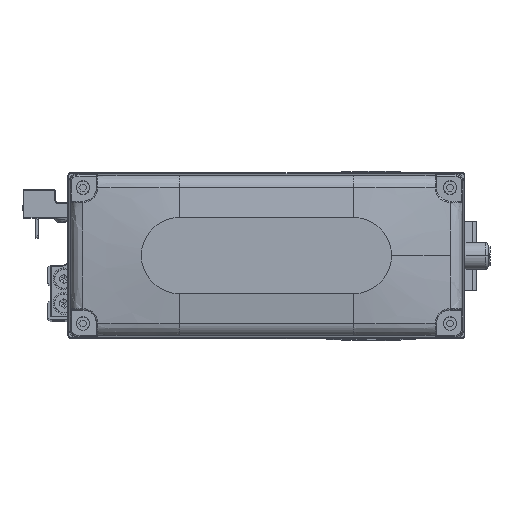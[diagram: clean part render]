
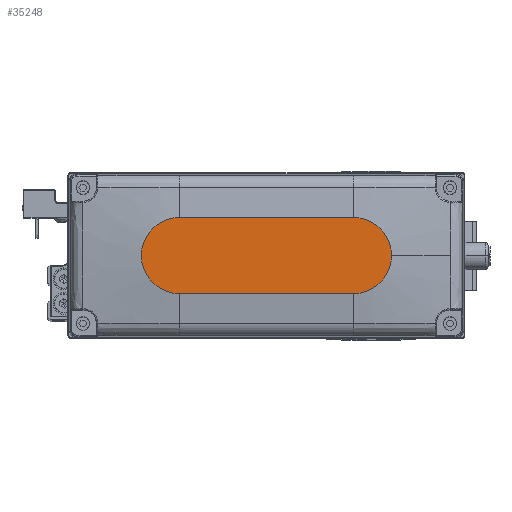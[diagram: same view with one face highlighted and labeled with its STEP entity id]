
A CAD part, top view. The second image highlights one B-rep face of the part: STEP entity #35248.
In plain terms, the highlighted planar face has unit normal (0, 0, 1).
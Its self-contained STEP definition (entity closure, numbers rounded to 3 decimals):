
#971 = AXIS2_PLACEMENT_3D ( 'NONE', #16102, #29853, #43582 ) ;
#2519 = EDGE_CURVE ( 'NONE', #14232, #36841, #20428, .T. ) ;
#2856 = ORIENTED_EDGE ( 'NONE', *, *, #8166, .T. ) ;
#2910 = DIRECTION ( 'NONE',  ( -1., 0., 0. ) ) ;
#3317 = CIRCLE ( 'NONE', #28477, 14. ) ;
#3831 = ORIENTED_EDGE ( 'NONE', *, *, #22812, .T. ) ;
#4635 = DIRECTION ( 'NONE',  ( 0., 0., 1. ) ) ;
#7347 = VERTEX_POINT ( 'NONE', #38897 ) ;
#7358 = DIRECTION ( 'NONE',  ( 1., 0., 0. ) ) ;
#8166 = EDGE_CURVE ( 'NONE', #36964, #11638, #3317, .T. ) ;
#10507 = AXIS2_PLACEMENT_3D ( 'NONE', #41659, #10808, #24541 ) ;
#10808 = DIRECTION ( 'NONE',  ( 0., 0., 1. ) ) ;
#11638 = VERTEX_POINT ( 'NONE', #43970 ) ;
#13787 = LINE ( 'NONE', #27514, #36539 ) ;
#14216 = FACE_OUTER_BOUND ( 'NONE', #30255, .T. ) ;
#14232 = VERTEX_POINT ( 'NONE', #39250 ) ;
#16102 = CARTESIAN_POINT ( 'NONE',  ( 32., 0., 35. ) ) ;
#16183 = AXIS2_PLACEMENT_3D ( 'NONE', #35482, #4635, #18400 ) ;
#17114 = CARTESIAN_POINT ( 'NONE',  ( 46., 0., 35. ) ) ;
#18400 = DIRECTION ( 'NONE',  ( 1., 0., 0. ) ) ;
#19140 = VECTOR ( 'NONE', #2910, 1000. ) ;
#20062 = LINE ( 'NONE', #33777, #19140 ) ;
#20428 = CIRCLE ( 'NONE', #971, 14. ) ;
#22812 = EDGE_CURVE ( 'NONE', #7347, #36964, #20062, .T. ) ;
#24489 = CARTESIAN_POINT ( 'NONE',  ( -32., 0., 35. ) ) ;
#24541 = DIRECTION ( 'NONE',  ( 1., 0., 0. ) ) ;
#27514 = CARTESIAN_POINT ( 'NONE',  ( -32., -14., 35. ) ) ;
#27949 = PLANE ( 'NONE',  #10507 ) ;
#28477 = AXIS2_PLACEMENT_3D ( 'NONE', #24489, #38205, #7358 ) ;
#28516 = ORIENTED_EDGE ( 'NONE', *, *, #2519, .T. ) ;
#29853 = DIRECTION ( 'NONE',  ( 0., 0., 1. ) ) ;
#30255 = EDGE_LOOP ( 'NONE', ( #3831, #2856, #37730, #28516, #40513 ) ) ;
#33777 = CARTESIAN_POINT ( 'NONE',  ( -32., 14., 35. ) ) ;
#35248 = ADVANCED_FACE ( 'NONE', ( #14216 ), #27949, .T. ) ;
#35482 = CARTESIAN_POINT ( 'NONE',  ( 32., 0., 35. ) ) ;
#35600 = CIRCLE ( 'NONE', #16183, 14. ) ;
#36539 = VECTOR ( 'NONE', #41232, 1000. ) ;
#36841 = VERTEX_POINT ( 'NONE', #17114 ) ;
#36964 = VERTEX_POINT ( 'NONE', #42273 ) ;
#37730 = ORIENTED_EDGE ( 'NONE', *, *, #43102, .T. ) ;
#38205 = DIRECTION ( 'NONE',  ( 0., 0., 1. ) ) ;
#38897 = CARTESIAN_POINT ( 'NONE',  ( 32., 14., 35. ) ) ;
#39250 = CARTESIAN_POINT ( 'NONE',  ( 32., -14., 35. ) ) ;
#39998 = EDGE_CURVE ( 'NONE', #36841, #7347, #35600, .T. ) ;
#40513 = ORIENTED_EDGE ( 'NONE', *, *, #39998, .T. ) ;
#41232 = DIRECTION ( 'NONE',  ( 1., 0., 0. ) ) ;
#41659 = CARTESIAN_POINT ( 'NONE',  ( 0., 0., 35. ) ) ;
#42273 = CARTESIAN_POINT ( 'NONE',  ( -32., 14., 35. ) ) ;
#43102 = EDGE_CURVE ( 'NONE', #11638, #14232, #13787, .T. ) ;
#43582 = DIRECTION ( 'NONE',  ( 1., 0., 0. ) ) ;
#43970 = CARTESIAN_POINT ( 'NONE',  ( -32., -14., 35. ) ) ;
